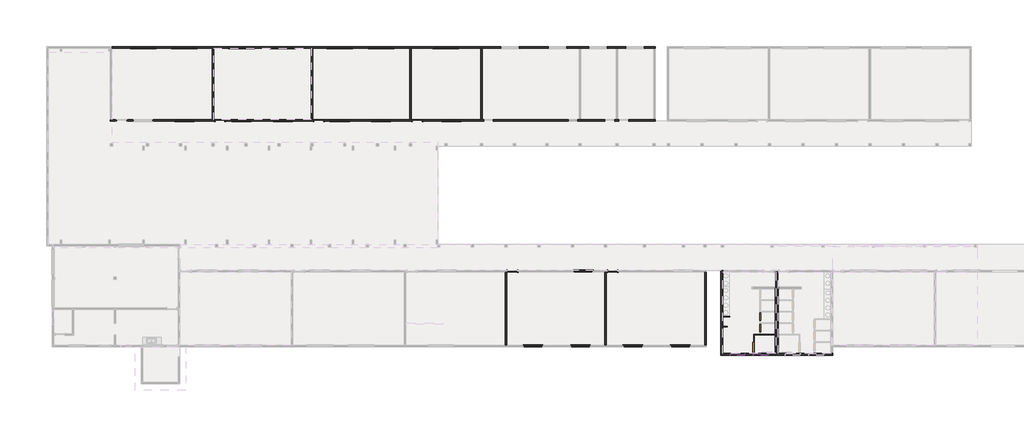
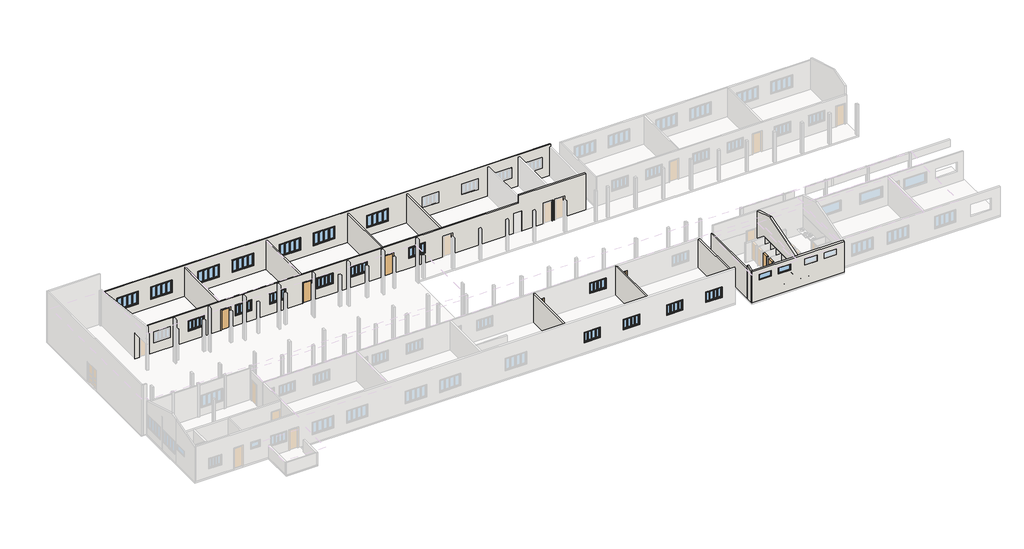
# One storey, part 2 of 5: 21 walls, 20 windows, 8 doors.
"""IFC4 building model written with IfcOpenShell, lengths in millimetres."""

from ifc_helpers import new_model, si_unit, frame, origin, origin_with_axes, place, context, project, spatial, polyline, outline, extrude, faceted_brep, transform, mapped, element, save
from components import m_single_flush_0800_x_2100mm_0fb022da, m_single_flush_0800_x_2100mm_21ec692d, porta_sanitario_0600_x_2100mm_3094f655, porta_sanitario_08013_x_200134mm_2_03278394, casement_quad_w_trim_1500_x_1000_mm_b7d6dd6f, casement_quad_w_trim_1500_x_1000_mm_8fcab8cd, casement_quad_w_trim_2000_x_1000_mm_fe9ded81, janela_93b8da09

model = new_model("IFC4")

# Units and contexts
model_context = context("Model", 3, world=origin())
ifc_project = project(units=[si_unit("LENGTHUNIT", "METRE", prefix="MILLI")], contexts=[model_context])

# Site, building, storey
site = spatial("IfcSite", under=ifc_project)
building = spatial("IfcBuilding", under=site)
storey = spatial("IfcBuildingStorey", under=building, Name="Planta de implantação", Elevation=0.0)

# Doors
placement = place(None, origin())
m_single_flush_0800_x_2100mm_shape = m_single_flush_0800_x_2100mm_0fb022da(model_context)
element("IfcDoor", 1, ObjectType="M_Single-Flush : 0800 x 2100mm", at=placement, inside=storey, context=model_context, shape_type="MappedRepresentation", body=[
    mapped(m_single_flush_0800_x_2100mm_shape, transform((2339.7647365, -22683.3222718, 0.0), x_axis=(-1.0, 0.0, 0.0), y_axis=(0.0, -1.0, 0.0), z_axis=(0.0, 0.0, 1.0))),
])
element("IfcDoor", 2, ObjectType="M_Single-Flush : 0800 x 2100mm", at=placement, inside=storey, context=model_context, shape_type="MappedRepresentation", body=[
    mapped(m_single_flush_0800_x_2100mm_shape, transform((10479.7647365, -22683.3222718, 0.0), x_axis=(-1.0, 0.0, 0.0), y_axis=(0.0, -1.0, 0.0), z_axis=(0.0, 0.0, 1.0))),
])
m_single_flush_0800_x_2100mm_2_shape = m_single_flush_0800_x_2100mm_21ec692d(model_context)
element("IfcDoor", 3, ObjectType="M_Single-Flush : 0800 x 2100mm", at=placement, inside=storey, context=model_context, shape_type="MappedRepresentation", body=[
    mapped(m_single_flush_0800_x_2100mm_2_shape, transform((-21370.2352635, -10453.3222718, 0.0), x_axis=(-1.0, 0.0, 0.0), y_axis=(0.0, -1.0, 0.0), z_axis=(0.0, 0.0, 1.0))),
])
element("IfcDoor", 4, ObjectType="M_Single-Flush : 0800 x 2100mm", at=placement, inside=storey, context=model_context, shape_type="MappedRepresentation", body=[
    mapped(m_single_flush_0800_x_2100mm_2_shape, transform((-13340.2352635, -10453.3222718, 0.0), x_axis=(-1.0, 0.0, 0.0), y_axis=(0.0, -1.0, 0.0), z_axis=(0.0, 0.0, 1.0))),
])
element("IfcDoor", 5, ObjectType="M_Single-Flush : 0800 x 2100mm", at=placement, inside=storey, context=model_context, shape_type="MappedRepresentation", body=[
    mapped(m_single_flush_0800_x_2100mm_2_shape, transform((-5360.2352635, -10453.3222718, 0.0), x_axis=(-1.0, 0.0, 0.0), y_axis=(0.0, -1.0, 0.0), z_axis=(0.0, 0.0, 1.0))),
])
porta_sanitario_0600_x_2100mm_shape = porta_sanitario_0600_x_2100mm_3094f655(model_context)
element("IfcDoor", 6, ObjectType="Porta-sanitario : 0600 x 2100mm", at=placement, inside=storey, context=model_context, shape_type="MappedRepresentation", body=[
    mapped(porta_sanitario_0600_x_2100mm_shape, transform((22449.7647365, -26388.3222718, 0.0), x_axis=(0.0, 1.0, 0.0), y_axis=(-1.0, 0.0, 0.0), z_axis=(0.0, 0.0, 1.0))),
])
element("IfcDoor", 7, ObjectType="Porta-sanitario : 0600 x 2100mm", at=placement, inside=storey, context=model_context, shape_type="MappedRepresentation", body=[
    mapped(porta_sanitario_0600_x_2100mm_shape, transform((22449.7647365, -27328.3222718, 0.0), x_axis=(0.0, 1.0, 0.0), y_axis=(-1.0, 0.0, 0.0), z_axis=(0.0, 0.0, 1.0))),
])
porta_sanitario_08013_x_200134mm_2_shape = porta_sanitario_08013_x_200134mm_2_03278394(model_context)
element("IfcDoor", 8, ObjectType="Porta-sanitario : 08013 x 200134mm 2", at=placement, inside=storey, context=model_context, shape_type="MappedRepresentation", body=[
    mapped(porta_sanitario_08013_x_200134mm_2_shape, transform((21949.7647365, -28871.8222718, 0.0), x_axis=(0.0, -1.0, 0.0), y_axis=(1.0, 0.0, 0.0), z_axis=(0.0, 0.0, 1.0))),
])

# Walls
element("IfcWall", 9, ObjectType="Generic - azuleijo", at=placement, inside=storey, context=model_context, shape_type="SweptSolid", body=[
    extrude(outline(polyline([(19419.7647365, -22768.3222718), (19419.7647365, -29368.3222718), (19409.7647365, -29368.3222718), (19409.7647365, -22768.3222718), (19419.7647365, -22768.3222718)])), origin_with_axes(), (0.0, 0.0, 1.0), 2000.0),
])
element("IfcWall", 10, ObjectType="Generic - azuleijo", at=placement, inside=storey, context=model_context, shape_type="Brep", body=[
    faceted_brep([(23709.7647365, -29368.3222718, 0.0), (23709.7647365, -24108.3222718, 0.0), (23709.7647365, -24108.3222718, 2000.0), (23709.7647365, -29368.3222718, 2000.0), (23699.7647365, -29368.3222718, 0.0), (23699.7647365, -29368.3222718, 2000.0), (23699.7647365, -27878.3222718, 2000.0), (23699.7647365, -27838.3222718, 2000.0), (23699.7647365, -26938.3222718, 2000.0), (23699.7647365, -26898.3222718, 2000.0), (23699.7647365, -25998.3222718, 2000.0), (23699.7647365, -25958.3222718, 2000.0), (23699.7647365, -25058.3222718, 2000.0), (23699.7647365, -25018.3222718, 2000.0), (23699.7647365, -24118.3222718, 2000.0), (23699.7647365, -24108.3222718, 2000.0), (23699.7647365, -24108.3222718, 0.0), (23699.7647365, -24118.3222718, 0.0), (23699.7647365, -25018.3222718, 0.0), (23699.7647365, -25058.3222718, 0.0), (23699.7647365, -25958.3222718, 0.0), (23699.7647365, -25998.3222718, 0.0), (23699.7647365, -26898.3222718, 0.0), (23699.7647365, -26938.3222718, 0.0), (23699.7647365, -27838.3222718, 0.0), (23699.7647365, -27878.3222718, 0.0)], [[[0, 1, 2, 3]], [[4, 5, 6, 7, 8, 9, 10, 11, 12, 13, 14, 15, 16, 17, 18, 19, 20, 21, 22, 23, 24, 25]], [[1, 0, 4, 25, 24, 23, 22, 21, 20, 19, 18, 17, 16]], [[3, 2, 15, 14, 13, 12, 11, 10, 9, 8, 7, 6, 5]], [[0, 3, 5, 4]], [[2, 1, 16, 15]]]),
])
element("IfcWall", 11, ObjectType="Generic - azuleijo", at=placement, inside=storey, context=model_context, shape_type="Brep", body=[
    faceted_brep([(23914.7647365, -29368.3222718, 0.0), (23914.7647365, -24118.3222718, 0.0), (23914.7647365, -24108.3222718, 0.0), (23914.7647365, -24108.3222718, 2000.0), (23914.7647365, -24118.3222718, 2000.0), (23914.7647365, -29368.3222718, 2000.0), (23904.7647365, -29368.3222718, 0.0), (23904.7647365, -29368.3222718, 2000.0), (23904.7647365, -24108.3222718, 2000.0), (23904.7647365, -24108.3222718, 0.0), (23909.7647365, -29368.3222718, 0.0), (23909.7647365, -24108.3222718, 0.0), (23909.7647365, -24108.3222718, 2000.0), (23909.7647365, -29368.3222718, 2000.0)], [[[0, 1, 2, 3, 4, 5]], [[6, 7, 8, 9]], [[2, 1, 0, 10, 6, 9, 11]], [[5, 4, 3, 12, 8, 7, 13]], [[0, 5, 13, 7, 6, 10]], [[3, 2, 11, 9, 8, 12]]]),
])
element("IfcWall", 12, ObjectType="Generic - azuleijo", at=placement, inside=storey, context=model_context, shape_type="SweptSolid", body=[
    extrude(outline(polyline([(19409.7647365, -29368.3222718), (23699.7647365, -29368.3222718), (23699.7647365, -29378.3222718), (19409.7647365, -29378.3222718), (19409.7647365, -29368.3222718)])), origin_with_axes(), (0.0, 0.0, 1.0), 2000.0),
])
element("IfcWall", 13, ObjectType="Generic - 130mm", at=placement, inside=storey, context=model_context, shape_type="Brep", body=[
    faceted_brep([(-30130.2352635, -4588.3222718, 0.0), (-22000.2352635, -4588.3222718, 0.0), (-21870.2352635, -4588.3222718, 0.0), (-13970.2352635, -4588.3222718, 0.0), (-13840.2352635, -4588.3222718, 0.0), (-5990.2352635, -4588.3222718, 0.0), (-5860.2352635, -4588.3222718, 0.0), (-210.2352635, -4588.3222718, 0.0), (-80.2352635, -4588.3222718, 0.0), (7769.7647365, -4588.3222718, 0.0), (7899.7647365, -4588.3222718, 0.0), (10769.7647365, -4588.3222718, 0.0), (10899.7647365, -4588.3222718, 0.0), (13819.7647365, -4588.3222718, 0.0), (13949.7647365, -4588.3222718, 0.0), (13949.7647365, -4588.3222718, 3000.0), (13949.7647365, -4588.3222718, 3219.0), (7419.7647365, -4588.3222718, 3219.0), (-30130.2352635, -4588.3222718, 3219.0), (11569.7647365, -4588.3222718, 1100.0), (11569.7647365, -4588.3222718, 2100.0), (13069.7647365, -4588.3222718, 2100.0), (13069.7647365, -4588.3222718, 1100.0), (8569.7647365, -4588.3222718, 1100.0), (8569.7647365, -4588.3222718, 2100.0), (10069.7647365, -4588.3222718, 2100.0), (10069.7647365, -4588.3222718, 1100.0), (5269.7647365, -4588.3222718, 2100.0), (6769.7647365, -4588.3222718, 2100.0), (6769.7647365, -4588.3222718, 1100.0), (5269.7647365, -4588.3222718, 1100.0), (1419.7647365, -4588.3222718, 2100.0), (2919.7647365, -4588.3222718, 2100.0), (2919.7647365, -4588.3222718, 1100.0), (1419.7647365, -4588.3222718, 1100.0), (-4035.2352635, -4588.3222718, 2100.0), (-2035.2352635, -4588.3222718, 2100.0), (-2035.2352635, -4588.3222718, 900.0), (-4035.2352635, -4588.3222718, 900.0), (-9290.2352635, -4588.3222718, 2100.0), (-7290.2352635, -4588.3222718, 2100.0), (-7290.2352635, -4588.3222718, 900.0), (-9290.2352635, -4588.3222718, 900.0), (-12640.2352635, -4588.3222718, 2100.0), (-10640.2352635, -4588.3222718, 2100.0), (-10640.2352635, -4588.3222718, 900.0), (-12640.2352635, -4588.3222718, 900.0), (-17270.2352635, -4588.3222718, 2100.0), (-15270.2352635, -4588.3222718, 2100.0), (-15270.2352635, -4588.3222718, 900.0), (-17270.2352635, -4588.3222718, 900.0), (-20620.2352635, -4588.3222718, 2100.0), (-18620.2352635, -4588.3222718, 2100.0), (-18620.2352635, -4588.3222718, 900.0), (-20620.2352635, -4588.3222718, 900.0), (-25250.2352635, -4588.3222718, 2100.0), (-23250.2352635, -4588.3222718, 2100.0), (-23250.2352635, -4588.3222718, 900.0), (-25250.2352635, -4588.3222718, 900.0), (-28600.2352635, -4588.3222718, 2100.0), (-26600.2352635, -4588.3222718, 2100.0), (-26600.2352635, -4588.3222718, 900.0), (-28600.2352635, -4588.3222718, 900.0), (13949.7647365, -4458.3222718, 0.0), (-30130.2352635, -4458.3222718, 0.0), (-30130.2352635, -4458.3222718, 3180.0), (7419.7647365, -4458.3222718, 3180.0), (13949.7647365, -4458.3222718, 3180.0), (11569.7647365, -4458.3222718, 2100.0), (11569.7647365, -4458.3222718, 1100.0), (13069.7647365, -4458.3222718, 1100.0), (13069.7647365, -4458.3222718, 2100.0), (8569.7647365, -4458.3222718, 2100.0), (8569.7647365, -4458.3222718, 1100.0), (10069.7647365, -4458.3222718, 1100.0), (10069.7647365, -4458.3222718, 2100.0), (5269.7647365, -4458.3222718, 2100.0), (5269.7647365, -4458.3222718, 1100.0), (6769.7647365, -4458.3222718, 1100.0), (6769.7647365, -4458.3222718, 2100.0), (1419.7647365, -4458.3222718, 2100.0), (1419.7647365, -4458.3222718, 1100.0), (2919.7647365, -4458.3222718, 1100.0), (2919.7647365, -4458.3222718, 2100.0), (-4035.2352635, -4458.3222718, 2100.0), (-4035.2352635, -4458.3222718, 900.0), (-2035.2352635, -4458.3222718, 900.0), (-2035.2352635, -4458.3222718, 2100.0), (-9290.2352635, -4458.3222718, 2100.0), (-9290.2352635, -4458.3222718, 900.0), (-7290.2352635, -4458.3222718, 900.0), (-7290.2352635, -4458.3222718, 2100.0), (-12640.2352635, -4458.3222718, 2100.0), (-12640.2352635, -4458.3222718, 900.0), (-10640.2352635, -4458.3222718, 900.0), (-10640.2352635, -4458.3222718, 2100.0), (-17270.2352635, -4458.3222718, 2100.0), (-17270.2352635, -4458.3222718, 900.0), (-15270.2352635, -4458.3222718, 900.0), (-15270.2352635, -4458.3222718, 2100.0), (-20620.2352635, -4458.3222718, 2100.0), (-20620.2352635, -4458.3222718, 900.0), (-18620.2352635, -4458.3222718, 900.0), (-18620.2352635, -4458.3222718, 2100.0), (-25250.2352635, -4458.3222718, 2100.0), (-25250.2352635, -4458.3222718, 900.0), (-23250.2352635, -4458.3222718, 900.0), (-23250.2352635, -4458.3222718, 2100.0), (-28600.2352635, -4458.3222718, 2100.0), (-28600.2352635, -4458.3222718, 900.0), (-26600.2352635, -4458.3222718, 900.0), (-26600.2352635, -4458.3222718, 2100.0)], [[[0, 1, 2, 3, 4, 5, 6, 7, 8, 9, 10, 11, 12, 13, 14, 15, 16, 17, 18], [19, 20, 21, 22], [23, 24, 25, 26], [27, 28, 29, 30], [31, 32, 33, 34], [35, 36, 37, 38], [39, 40, 41, 42], [43, 44, 45, 46], [47, 48, 49, 50], [51, 52, 53, 54], [55, 56, 57, 58], [59, 60, 61, 62]], [[63, 64, 65, 66, 67], [68, 69, 70, 71], [72, 73, 74, 75], [76, 77, 78, 79], [80, 81, 82, 83], [84, 85, 86, 87], [88, 89, 90, 91], [92, 93, 94, 95], [96, 97, 98, 99], [100, 101, 102, 103], [104, 105, 106, 107], [108, 109, 110, 111]], [[14, 13, 12, 11, 10, 9, 8, 7, 6, 5, 4, 3, 2, 1, 0, 64, 63]], [[0, 18, 65, 64]], [[16, 15, 14, 63, 67]], [[17, 16, 67, 66, 65, 18]], [[68, 20, 19, 69]], [[69, 19, 22, 70]], [[70, 22, 21, 71]], [[20, 68, 71, 21]], [[72, 24, 23, 73]], [[73, 23, 26, 74]], [[74, 26, 25, 75]], [[24, 72, 75, 25]], [[77, 76, 27, 30]], [[78, 77, 30, 29]], [[79, 78, 29, 28]], [[76, 79, 28, 27]], [[81, 80, 31, 34]], [[82, 81, 34, 33]], [[83, 82, 33, 32]], [[80, 83, 32, 31]], [[85, 84, 35, 38]], [[86, 85, 38, 37]], [[87, 86, 37, 36]], [[84, 87, 36, 35]], [[89, 88, 39, 42]], [[90, 89, 42, 41]], [[91, 90, 41, 40]], [[88, 91, 40, 39]], [[93, 92, 43, 46]], [[94, 93, 46, 45]], [[95, 94, 45, 44]], [[92, 95, 44, 43]], [[97, 96, 47, 50]], [[98, 97, 50, 49]], [[99, 98, 49, 48]], [[96, 99, 48, 47]], [[101, 100, 51, 54]], [[102, 101, 54, 53]], [[103, 102, 53, 52]], [[100, 103, 52, 51]], [[105, 104, 55, 58]], [[106, 105, 58, 57]], [[107, 106, 57, 56]], [[104, 107, 56, 55]], [[109, 108, 59, 62]], [[110, 109, 62, 61]], [[111, 110, 61, 60]], [[108, 111, 60, 59]]]),
])
element("IfcWall", 14, ObjectType="Generic - 130mm", at=placement, inside=storey, context=model_context, shape_type="Brep", body=[
    faceted_brep([(10669.7647365, -10518.3222718, 0.0), (10999.7647365, -10518.3222718, 0.0), (10999.7647365, -10518.3222718, 2100.0), (11799.7647365, -10518.3222718, 2100.0), (11799.7647365, -10518.3222718, 0.0), (13949.7647365, -10518.3222718, 0.0), (13949.7647365, -10518.3222718, 3780.0), (7419.7647365, -10518.3222718, 3780.0), (7419.7647365, -10518.3222718, 3000.0), (-30130.2352635, -10518.3222718, 3000.0), (-30130.2352635, -10518.3222718, 2700.0), (-30260.2352635, -10518.3222718, 2700.0), (-30260.2352635, -10518.3222718, 0.0), (-29750.2352635, -10518.3222718, 0.0), (-29750.2352635, -10518.3222718, 2100.0), (-28950.2352635, -10518.3222718, 2100.0), (-28950.2352635, -10518.3222718, 0.0), (-21770.2352635, -10518.3222718, 0.0), (-21770.2352635, -10518.3222718, 2100.0), (-20970.2352635, -10518.3222718, 2100.0), (-20970.2352635, -10518.3222718, 0.0), (-13740.2352635, -10518.3222718, 0.0), (-13740.2352635, -10518.3222718, 2100.0), (-12940.2352635, -10518.3222718, 2100.0), (-12940.2352635, -10518.3222718, 0.0), (-5760.2352635, -10518.3222718, 0.0), (-5760.2352635, -10518.3222718, 2100.0), (-4960.2352635, -10518.3222718, 2100.0), (-4960.2352635, -10518.3222718, 0.0), (19.7647365, -10518.3222718, 0.0), (19.7647365, -10518.3222718, 2100.0), (819.7647365, -10518.3222718, 2100.0), (819.7647365, -10518.3222718, 0.0), (6869.7647365, -10518.3222718, 0.0), (6869.7647365, -10518.3222718, 2100.0), (7669.7647365, -10518.3222718, 2100.0), (7669.7647365, -10518.3222718, 0.0), (9869.7647365, -10518.3222718, 0.0), (9869.7647365, -10518.3222718, 2100.0), (10669.7647365, -10518.3222718, 2100.0), (-3335.2352635, -10518.3222718, 2100.0), (-1835.2352635, -10518.3222718, 2100.0), (-1835.2352635, -10518.3222718, 1100.0), (-3335.2352635, -10518.3222718, 1100.0), (-12390.2352635, -10518.3222718, 2100.0), (-10890.2352635, -10518.3222718, 2100.0), (-10890.2352635, -10518.3222718, 1100.0), (-12390.2352635, -10518.3222718, 1100.0), (-7540.2352635, -10518.3222718, 2100.0), (-7540.2352635, -10518.3222718, 1100.0), (-9040.2352635, -10518.3222718, 1100.0), (-9040.2352635, -10518.3222718, 2100.0), (-20370.2352635, -10518.3222718, 2100.0), (-18870.2352635, -10518.3222718, 2100.0), (-18870.2352635, -10518.3222718, 1100.0), (-20370.2352635, -10518.3222718, 1100.0), (-15520.2352635, -10518.3222718, 2100.0), (-15520.2352635, -10518.3222718, 1100.0), (-17020.2352635, -10518.3222718, 1100.0), (-17020.2352635, -10518.3222718, 2100.0), (-28350.2352635, -10518.3222718, 2100.0), (-26850.2352635, -10518.3222718, 2100.0), (-26850.2352635, -10518.3222718, 1100.0), (-28350.2352635, -10518.3222718, 1100.0), (-23500.2352635, -10518.3222718, 2100.0), (-23500.2352635, -10518.3222718, 1100.0), (-25000.2352635, -10518.3222718, 1100.0), (-25000.2352635, -10518.3222718, 2100.0), (10999.7647365, -10388.3222718, 2100.0), (10999.7647365, -10388.3222718, 0.0), (10899.7647365, -10388.3222718, 0.0), (10769.7647365, -10388.3222718, 0.0), (10669.7647365, -10388.3222718, 0.0), (10669.7647365, -10388.3222718, 2100.0), (9869.7647365, -10388.3222718, 2100.0), (9869.7647365, -10388.3222718, 0.0), (7899.7647365, -10388.3222718, 0.0), (7769.7647365, -10388.3222718, 0.0), (7669.7647365, -10388.3222718, 0.0), (7669.7647365, -10388.3222718, 2100.0), (6869.7647365, -10388.3222718, 2100.0), (6869.7647365, -10388.3222718, 0.0), (819.7647365, -10388.3222718, 0.0), (819.7647365, -10388.3222718, 2100.0), (19.7647365, -10388.3222718, 2100.0), (19.7647365, -10388.3222718, 0.0), (-80.2352635, -10388.3222718, 0.0), (-210.2352635, -10388.3222718, 0.0), (-4960.2352635, -10388.3222718, 0.0), (-4960.2352635, -10388.3222718, 2100.0), (-5760.2352635, -10388.3222718, 2100.0), (-5760.2352635, -10388.3222718, 0.0), (-5860.2352635, -10388.3222718, 0.0), (-5990.2352635, -10388.3222718, 0.0), (-12940.2352635, -10388.3222718, 0.0), (-12940.2352635, -10388.3222718, 2100.0), (-13740.2352635, -10388.3222718, 2100.0), (-13740.2352635, -10388.3222718, 0.0), (-13840.2352635, -10388.3222718, 0.0), (-13970.2352635, -10388.3222718, 0.0), (-20970.2352635, -10388.3222718, 0.0), (-20970.2352635, -10388.3222718, 2100.0), (-21770.2352635, -10388.3222718, 2100.0), (-21770.2352635, -10388.3222718, 0.0), (-21870.2352635, -10388.3222718, 0.0), (-22000.2352635, -10388.3222718, 0.0), (-28950.2352635, -10388.3222718, 0.0), (-28950.2352635, -10388.3222718, 2100.0), (-29750.2352635, -10388.3222718, 2100.0), (-29750.2352635, -10388.3222718, 0.0), (-30130.2352635, -10388.3222718, 0.0), (-30260.2352635, -10388.3222718, 0.0), (-30260.2352635, -10388.3222718, 2700.0), (-30130.2352635, -10388.3222718, 2700.0), (-30130.2352635, -10388.3222718, 3000.0), (-22000.2352635, -10388.3222718, 3000.0), (-21870.2352635, -10388.3222718, 3000.0), (-13970.2352635, -10388.3222718, 3000.0), (-13840.2352635, -10388.3222718, 3000.0), (-5990.2352635, -10388.3222718, 3000.0), (-5860.2352635, -10388.3222718, 3000.0), (-210.2352635, -10388.3222718, 3000.0), (-80.2352635, -10388.3222718, 3000.0), (7419.7647365, -10388.3222718, 3000.0), (7419.7647365, -10388.3222718, 3819.0), (13949.7647365, -10388.3222718, 3819.0), (13949.7647365, -10388.3222718, 3000.0), (13949.7647365, -10388.3222718, 0.0), (13819.7647365, -10388.3222718, 0.0), (11799.7647365, -10388.3222718, 0.0), (11799.7647365, -10388.3222718, 2100.0), (-3335.2352635, -10388.3222718, 2100.0), (-3335.2352635, -10388.3222718, 1100.0), (-1835.2352635, -10388.3222718, 1100.0), (-1835.2352635, -10388.3222718, 2100.0), (-12390.2352635, -10388.3222718, 2100.0), (-12390.2352635, -10388.3222718, 1100.0), (-10890.2352635, -10388.3222718, 1100.0), (-10890.2352635, -10388.3222718, 2100.0), (-7540.2352635, -10388.3222718, 2100.0), (-9040.2352635, -10388.3222718, 2100.0), (-9040.2352635, -10388.3222718, 1100.0), (-7540.2352635, -10388.3222718, 1100.0), (-20370.2352635, -10388.3222718, 2100.0), (-20370.2352635, -10388.3222718, 1100.0), (-18870.2352635, -10388.3222718, 1100.0), (-18870.2352635, -10388.3222718, 2100.0), (-15520.2352635, -10388.3222718, 2100.0), (-17020.2352635, -10388.3222718, 2100.0), (-17020.2352635, -10388.3222718, 1100.0), (-15520.2352635, -10388.3222718, 1100.0), (-28350.2352635, -10388.3222718, 2100.0), (-28350.2352635, -10388.3222718, 1100.0), (-26850.2352635, -10388.3222718, 1100.0), (-26850.2352635, -10388.3222718, 2100.0), (-23500.2352635, -10388.3222718, 2100.0), (-25000.2352635, -10388.3222718, 2100.0), (-25000.2352635, -10388.3222718, 1100.0), (-23500.2352635, -10388.3222718, 1100.0)], [[[0, 1, 2, 3, 4, 5, 6, 7, 8, 9, 10, 11, 12, 13, 14, 15, 16, 17, 18, 19, 20, 21, 22, 23, 24, 25, 26, 27, 28, 29, 30, 31, 32, 33, 34, 35, 36, 37, 38, 39], [40, 41, 42, 43], [44, 45, 46, 47], [48, 49, 50, 51], [52, 53, 54, 55], [56, 57, 58, 59], [60, 61, 62, 63], [64, 65, 66, 67]], [[68, 69, 70, 71, 72, 73, 74, 75, 76, 77, 78, 79, 80, 81, 82, 83, 84, 85, 86, 87, 88, 89, 90, 91, 92, 93, 94, 95, 96, 97, 98, 99, 100, 101, 102, 103, 104, 105, 106, 107, 108, 109, 110, 111, 112, 113, 114, 115, 116, 117, 118, 119, 120, 121, 122, 123, 124, 125, 126, 127, 128, 129, 130], [131, 132, 133, 134], [135, 136, 137, 138], [139, 140, 141, 142], [143, 144, 145, 146], [147, 148, 149, 150], [151, 152, 153, 154], [155, 156, 157, 158]], [[72, 71, 70, 69, 1, 0]], [[12, 111, 110, 109, 13]], [[16, 106, 105, 104, 103, 17]], [[20, 100, 99, 98, 97, 21]], [[24, 94, 93, 92, 91, 25]], [[28, 88, 87, 86, 85, 29]], [[32, 82, 81, 33]], [[37, 36, 78, 77, 76, 75]], [[129, 128, 127, 5, 4]], [[6, 5, 127, 126, 125]], [[113, 112, 11, 10]], [[12, 11, 112, 111]], [[10, 9, 114, 113]], [[114, 9, 8, 123, 122, 121, 120, 119, 118, 117, 116, 115]], [[123, 8, 7, 124]], [[7, 6, 125, 124]], [[14, 13, 109, 108]], [[15, 14, 108, 107]], [[16, 15, 107, 106]], [[18, 17, 103, 102]], [[19, 18, 102, 101]], [[20, 19, 101, 100]], [[22, 21, 97, 96]], [[23, 22, 96, 95]], [[24, 23, 95, 94]], [[26, 25, 91, 90]], [[27, 26, 90, 89]], [[28, 27, 89, 88]], [[30, 29, 85, 84]], [[31, 30, 84, 83]], [[32, 31, 83, 82]], [[35, 79, 78, 36]], [[79, 35, 34, 80]], [[80, 34, 33, 81]], [[73, 72, 0, 39]], [[74, 73, 39, 38]], [[75, 74, 38, 37]], [[2, 1, 69, 68]], [[3, 2, 68, 130]], [[4, 3, 130, 129]], [[132, 131, 40, 43]], [[133, 132, 43, 42]], [[134, 133, 42, 41]], [[131, 134, 41, 40]], [[136, 135, 44, 47]], [[137, 136, 47, 46]], [[138, 137, 46, 45]], [[135, 138, 45, 44]], [[49, 48, 139, 142]], [[50, 49, 142, 141]], [[51, 50, 141, 140]], [[48, 51, 140, 139]], [[144, 143, 52, 55]], [[145, 144, 55, 54]], [[146, 145, 54, 53]], [[143, 146, 53, 52]], [[57, 56, 147, 150]], [[58, 57, 150, 149]], [[59, 58, 149, 148]], [[56, 59, 148, 147]], [[152, 151, 60, 63]], [[153, 152, 63, 62]], [[154, 153, 62, 61]], [[151, 154, 61, 60]], [[65, 64, 155, 158]], [[66, 65, 158, 157]], [[67, 66, 157, 156]], [[64, 67, 156, 155]]]),
])
element("IfcWall", 15, ObjectType="Generic - 130mm", at=placement, inside=storey, context=model_context, shape_type="SweptSolid", body=[
    extrude(outline(polyline([(-22000.2352635, -10388.3222718), (-22000.2352635, -4588.3222718), (-21870.2352635, -4588.3222718), (-21870.2352635, -10388.3222718), (-22000.2352635, -10388.3222718)])), origin_with_axes(), (0.0, 0.0, 1.0), 3000.0),
])
element("IfcWall", 16, ObjectType="Generic - 130mm", at=placement, inside=storey, context=model_context, shape_type="SweptSolid", body=[
    extrude(outline(polyline([(-13970.2352635, -10388.3222718), (-13970.2352635, -4588.3222718), (-13840.2352635, -4588.3222718), (-13840.2352635, -10388.3222718), (-13970.2352635, -10388.3222718)])), origin_with_axes(), (0.0, 0.0, 1.0), 3000.0),
])
element("IfcWall", 17, ObjectType="Generic - 130mm", at=placement, inside=storey, context=model_context, shape_type="SweptSolid", body=[
    extrude(outline(polyline([(-5990.2352635, -10388.3222718), (-5990.2352635, -4588.3222718), (-5860.2352635, -4588.3222718), (-5860.2352635, -10388.3222718), (-5990.2352635, -10388.3222718)])), origin_with_axes(), (0.0, 0.0, 1.0), 3000.0),
])
element("IfcWall", 18, ObjectType="Generic - 130mm", at=placement, inside=storey, context=model_context, shape_type="SweptSolid", body=[
    extrude(outline(polyline([(-210.2352635, -10388.3222718), (-210.2352635, -4588.3222718), (-80.2352635, -4588.3222718), (-80.2352635, -10388.3222718), (-210.2352635, -10388.3222718)])), origin_with_axes(), (0.0, 0.0, 1.0), 3000.0),
])
element("IfcWall", 19, ObjectType="Generic - 130mm", at=placement, inside=storey, context=model_context, shape_type="SweptSolid", body=[
    extrude(outline(polyline([(1899.7647365, -22748.3222718), (1899.7647365, -28698.3222718), (1769.7647365, -28698.3222718), (1769.7647365, -22748.3222718), (1899.7647365, -22748.3222718)])), origin_with_axes(), (0.0, 0.0, 1.0), 3000.0),
])
element("IfcWall", 20, ObjectType="Generic - 130mm", at=placement, inside=storey, context=model_context, shape_type="SweptSolid", body=[
    extrude(outline(polyline([(9979.7647365, -22748.3222718), (9979.7647365, -28698.3222718), (9849.7647365, -28698.3222718), (9849.7647365, -22748.3222718), (9979.7647365, -22748.3222718)])), origin_with_axes(), (0.0, 0.0, 1.0), 3000.0),
])
element("IfcWall", 21, ObjectType="Generic - 130mm", at=placement, inside=storey, context=model_context, shape_type="Brep", body=[
    faceted_brep([(19409.7647365, -28778.3222718, 0.0), (19409.7647365, -22768.3222718, 0.0), (19409.7647365, -22758.3222718, 0.0), (19409.7647365, -22618.3222718, 0.0), (19409.7647365, -22618.3222718, 3000.0), (19409.7647365, -28778.3222718, 3000.0), (19279.7647365, -28778.3222718, 0.0), (19279.7647365, -28778.3222718, 3000.0), (19279.7647365, -22618.3222718, 3000.0), (19279.7647365, -22618.3222718, 0.0)], [[[0, 1, 2, 3, 4, 5]], [[6, 7, 8, 9]], [[3, 2, 1, 0, 6, 9]], [[5, 4, 8, 7]], [[0, 5, 7, 6]], [[4, 3, 9, 8]]]),
])
element("IfcWall", 22, ObjectType="Generic - 130mm", at=placement, inside=storey, context=model_context, shape_type="Brep", body=[
    faceted_brep([(19279.7647365, -28778.3222718, 0.0), (19279.7647365, -29368.3222718, 0.0), (19279.7647365, -29368.3222718, 3243.0), (19279.7647365, -28778.3222718, 3420.0), (19279.7647365, -28778.3222718, 3000.0), (19409.7647365, -28778.3222718, 0.0), (19409.7647365, -28778.3222718, 3000.0), (19409.7647365, -28778.3222718, 3420.0), (19409.7647365, -29368.3222718, 3243.0), (19409.7647365, -29368.3222718, 2000.0), (19409.7647365, -29368.3222718, 0.0)], [[[0, 1, 2, 3, 4]], [[5, 6, 7, 8, 9, 10]], [[1, 0, 5, 10]], [[0, 4, 3, 7, 6, 5]], [[2, 1, 10, 9, 8]], [[3, 2, 8, 7]]]),
])
element("IfcWall", 23, ObjectType="Generic - 130mm", at=placement, inside=storey, context=model_context, shape_type="SweptSolid", body=[
    extrude(outline(polyline([(18079.7647365, -22748.3222718), (18079.7647365, -28698.3222718), (17949.7647365, -28698.3222718), (17949.7647365, -22748.3222718), (18079.7647365, -22748.3222718)])), origin_with_axes(), (0.0, 0.0, 1.0), 3000.0),
])
element("IfcWall", 24, ObjectType="Generic - 150mm", at=placement, inside=storey, context=model_context, shape_type="Brep", body=[
    faceted_brep([(19279.7647365, -29518.3222718, 0.0), (28364.7647365, -29518.3222718, 0.0), (28364.7647365, -29518.3222718, 3198.0), (19279.7647365, -29518.3222718, 3198.0), (25714.7647365, -29518.3222718, 2700.0), (25714.7647365, -29518.3222718, 2100.0), (24514.7647365, -29518.3222718, 2100.0), (24514.7647365, -29518.3222718, 2700.0), (23099.7647365, -29518.3222718, 2700.0), (23099.7647365, -29518.3222718, 2100.0), (21899.7647365, -29518.3222718, 2100.0), (21899.7647365, -29518.3222718, 2700.0), (27604.7647365, -29518.3222718, 2700.0), (27604.7647365, -29518.3222718, 2100.0), (26404.7647365, -29518.3222718, 2100.0), (26404.7647365, -29518.3222718, 2700.0), (21219.7647365, -29518.3222718, 2700.0), (21219.7647365, -29518.3222718, 2100.0), (20019.7647365, -29518.3222718, 2100.0), (20019.7647365, -29518.3222718, 2700.0), (28364.7647365, -29368.3222718, 3243.0), (28364.7647365, -29368.3222718, 0.0), (28214.7647365, -29368.3222718, 0.0), (28214.7647365, -29368.3222718, 2000.0), (23909.7647365, -29368.3222718, 2000.0), (23909.7647365, -29368.3222718, 0.0), (23904.7647365, -29368.3222718, 0.0), (23709.7647365, -29368.3222718, 0.0), (23699.7647365, -29368.3222718, 0.0), (23699.7647365, -29368.3222718, 2000.0), (19409.7647365, -29368.3222718, 2000.0), (19409.7647365, -29368.3222718, 0.0), (19279.7647365, -29368.3222718, 0.0), (19279.7647365, -29368.3222718, 3243.0), (19409.7647365, -29368.3222718, 3243.0), (23709.7647365, -29368.3222718, 3243.0), (23909.7647365, -29368.3222718, 3243.0), (28214.7647365, -29368.3222718, 3243.0), (25714.7647365, -29368.3222718, 2100.0), (25714.7647365, -29368.3222718, 2700.0), (24514.7647365, -29368.3222718, 2700.0), (24514.7647365, -29368.3222718, 2100.0), (23099.7647365, -29368.3222718, 2100.0), (23099.7647365, -29368.3222718, 2700.0), (21899.7647365, -29368.3222718, 2700.0), (21899.7647365, -29368.3222718, 2100.0), (27604.7647365, -29368.3222718, 2100.0), (27604.7647365, -29368.3222718, 2700.0), (26404.7647365, -29368.3222718, 2700.0), (26404.7647365, -29368.3222718, 2100.0), (21219.7647365, -29368.3222718, 2100.0), (21219.7647365, -29368.3222718, 2700.0), (20019.7647365, -29368.3222718, 2700.0), (20019.7647365, -29368.3222718, 2100.0), (19409.7647365, -29378.3222718, 0.0), (23699.7647365, -29378.3222718, 0.0), (23909.7647365, -29378.3222718, 0.0), (28214.7647365, -29378.3222718, 0.0), (28214.7647365, -29378.3222718, 2000.0), (23909.7647365, -29378.3222718, 2000.0), (23699.7647365, -29378.3222718, 2000.0), (19409.7647365, -29378.3222718, 2000.0)], [[[0, 1, 2, 3], [4, 5, 6, 7], [8, 9, 10, 11], [12, 13, 14, 15], [16, 17, 18, 19]], [[20, 21, 22, 23, 24, 25, 26, 27, 28, 29, 30, 31, 32, 33, 34, 35, 36, 37], [38, 39, 40, 41], [42, 43, 44, 45], [46, 47, 48, 49], [50, 51, 52, 53]], [[1, 0, 32, 31, 54, 55, 28, 27, 26, 25, 56, 57, 22, 21]], [[2, 1, 21, 20]], [[0, 3, 33, 32]], [[3, 2, 20, 37, 36, 35, 34, 33]], [[38, 5, 4, 39]], [[39, 4, 7, 40]], [[40, 7, 6, 41]], [[5, 38, 41, 6]], [[42, 9, 8, 43]], [[43, 8, 11, 44]], [[44, 11, 10, 45]], [[9, 42, 45, 10]], [[46, 13, 12, 47]], [[47, 12, 15, 48]], [[48, 15, 14, 49]], [[13, 46, 49, 14]], [[50, 17, 16, 51]], [[51, 16, 19, 52]], [[52, 19, 18, 53]], [[17, 50, 53, 18]], [[58, 57, 56, 59]], [[58, 59, 24, 23]], [[57, 58, 23, 22]], [[59, 56, 25, 24]], [[60, 55, 54, 61]], [[60, 61, 30, 29]], [[55, 60, 29, 28]], [[61, 54, 31, 30]]]),
])
element("IfcWall", 25, ObjectType="Generic - 200mm", at=placement, inside=storey, context=model_context, shape_type="Brep", body=[
    faceted_brep([(23909.7647365, -22768.3222718, 3915.0), (23909.7647365, -24948.3222718, 4569.0), (23909.7647365, -29368.3222718, 3243.0), (23909.7647365, -29368.3222718, 2000.0), (23909.7647365, -24108.3222718, 2000.0), (23909.7647365, -24108.3222718, 0.0), (23909.7647365, -23978.3222718, 0.0), (23909.7647365, -23978.3222718, 2000.0), (23909.7647365, -22768.3222718, 2000.0), (23709.7647365, -22768.3222718, 0.0), (23709.7647365, -23968.3222718, 0.0), (23709.7647365, -24118.3222718, 0.0), (23709.7647365, -29368.3222718, 0.0), (23709.7647365, -29368.3222718, 3243.0), (23709.7647365, -24948.3222718, 4569.0), (23709.7647365, -22768.3222718, 3915.0), (23904.7647365, -22768.3222718, 0.0), (23904.7647365, -23978.3222718, 0.0), (23904.7647365, -24108.3222718, 0.0), (23904.7647365, -29368.3222718, 0.0), (23904.7647365, -29368.3222718, 2000.0), (23904.7647365, -22768.3222718, 2000.0), (23904.7647365, -24108.3222718, 2000.0), (23904.7647365, -23978.3222718, 2000.0)], [[[0, 1, 2, 3, 4, 5, 6, 7, 8]], [[9, 10, 11, 12, 13, 14, 15]], [[12, 11, 10, 9, 16, 17, 6, 5, 18, 19]], [[2, 13, 12, 19, 20, 3]], [[9, 15, 0, 8, 21, 16]], [[13, 2, 1, 14]], [[0, 15, 14, 1]], [[22, 20, 19, 18]], [[20, 22, 4, 3]], [[22, 18, 5, 4]], [[23, 17, 16, 21]], [[23, 21, 8, 7]], [[17, 23, 7, 6]]]),
])
element("IfcWall", 26, ObjectType="Generic - 40mm", at=placement, inside=storey, context=model_context, shape_type="Brep", body=[
    faceted_brep([(21929.7647365, -29368.3222718, 200.0), (21929.7647365, -29368.3222718, 2000.0), (21929.7647365, -29271.8722718, 2000.0), (21929.7647365, -29271.8722718, 200.0), (21969.7647365, -29368.3222718, 2000.0), (21969.7647365, -29368.3222718, 200.0), (21969.7647365, -29271.8722718, 200.0), (21969.7647365, -29271.8722718, 2000.0)], [[[0, 1, 2, 3]], [[4, 5, 6, 7]], [[5, 0, 3, 6]], [[1, 4, 7, 2]], [[1, 0, 5, 4]], [[3, 2, 7, 6]]]),
    faceted_brep([(21929.7647365, -27838.3222718, 2000.0), (21929.7647365, -27838.3222718, 200.0), (21929.7647365, -28471.7722718, 200.0), (21929.7647365, -28471.7722718, 2000.0), (21969.7647365, -27838.3222718, 200.0), (21969.7647365, -27838.3222718, 2000.0), (21969.7647365, -27878.3222718, 2000.0), (21969.7647365, -28471.7722718, 2000.0), (21969.7647365, -28471.7722718, 200.0)], [[[0, 1, 2, 3]], [[4, 5, 6, 7, 8]], [[1, 4, 8, 2]], [[5, 0, 3, 7, 6]], [[1, 0, 5, 4]], [[3, 2, 8, 7]]]),
])
element("IfcWall", 27, ObjectType="Generic - 40mm", at=placement, inside=storey, context=model_context, shape_type="SweptSolid", body=[
    extrude(outline(polyline([(19409.7647365, -27158.3222718), (19794.7647365, -27158.3222718), (19794.7647365, -27198.3222718), (19409.7647365, -27198.3222718), (19409.7647365, -27158.3222718)])), frame((0.0, 0.0, 400.0), z_axis=(0.0, 0.0, 1.0), x_axis=(1.0, 0.0, 0.0)), (0.0, 0.0, 1.0), 700.0),
])
element("IfcWall", 28, ObjectType="Generic - 40mm", at=placement, inside=storey, context=model_context, shape_type="SweptSolid", body=[
    extrude(outline(polyline([(19409.7647365, -26358.3222718), (19974.7647365, -26358.3222718), (19974.7647365, -26398.3222718), (19409.7647365, -26398.3222718), (19409.7647365, -26358.3222718)])), frame((0.0, 0.0, 400.0), z_axis=(0.0, 0.0, 1.0), x_axis=(1.0, 0.0, 0.0)), (0.0, 0.0, 1.0), 700.0),
])
element("IfcWall", 29, ObjectType="Generic - 40mm", at=placement, inside=storey, context=model_context, shape_type="Brep", body=[
    faceted_brep([(23699.7647365, -27838.3222718, 0.0), (23500.3684976, -27838.3222718, 0.0), (23300.3684976, -27838.3222718, 200.0), (22469.7647365, -27838.3222718, 200.0), (22429.7647365, -27838.3222718, 200.0), (22239.7647365, -27838.3222718, 200.0), (22039.7647365, -27838.3222718, 0.0), (21969.7647365, -27838.3222718, 0.0), (21969.7647365, -27838.3222718, 200.0), (21969.7647365, -27838.3222718, 2000.0), (22429.7647365, -27838.3222718, 2000.0), (22469.7647365, -27838.3222718, 2000.0), (23699.7647365, -27838.3222718, 2000.0), (23699.7647365, -27878.3222718, 0.0), (23699.7647365, -27878.3222718, 2000.0), (21969.7647365, -27878.3222718, 2000.0), (21969.7647365, -27878.3222718, 0.0), (22039.7647365, -27878.3222718, 0.0), (22239.7647365, -27878.3222718, 200.0), (23300.3684976, -27878.3222718, 200.0), (23500.3684976, -27878.3222718, 0.0)], [[[0, 1, 2, 3, 4, 5, 6, 7, 8, 9, 10, 11, 12]], [[13, 14, 15, 16, 17, 18, 19, 20]], [[1, 0, 13, 20]], [[2, 1, 20, 19]], [[5, 4, 3, 2, 19, 18]], [[6, 5, 18, 17]], [[7, 6, 17, 16]], [[12, 11, 10, 9, 15, 14]], [[9, 8, 7, 16, 15]], [[0, 12, 14, 13]]]),
])

# Windows
casement_quad_w_trim_1500_x_1000_mm_shape = casement_quad_w_trim_1500_x_1000_mm_b7d6dd6f(model_context)
element("IfcWindow", 30, ObjectType="Casement-Quad w Trim : 1500 x 1000 mm", at=placement, inside=storey, context=model_context, shape_type="MappedRepresentation", body=[
    mapped(casement_quad_w_trim_1500_x_1000_mm_shape, transform((4029.7647365, -28782.3722718, 185.6), x_axis=(-1.0, 0.0, 0.0), y_axis=(0.0, -1.0, 0.0), z_axis=(0.0, 0.0, 1.0))),
])
element("IfcWindow", 31, ObjectType="Casement-Quad w Trim : 1500 x 1000 mm", at=placement, inside=storey, context=model_context, shape_type="MappedRepresentation", body=[
    mapped(casement_quad_w_trim_1500_x_1000_mm_shape, transform((7879.7647365, -28782.3722718, 185.6), x_axis=(-1.0, 0.0, 0.0), y_axis=(0.0, -1.0, 0.0), z_axis=(0.0, 0.0, 1.0))),
])
element("IfcWindow", 32, ObjectType="Casement-Quad w Trim : 1500 x 1000 mm", at=placement, inside=storey, context=model_context, shape_type="MappedRepresentation", body=[
    mapped(casement_quad_w_trim_1500_x_1000_mm_shape, transform((12129.7647365, -28782.3722718, 185.6), x_axis=(-1.0, 0.0, 0.0), y_axis=(0.0, -1.0, 0.0), z_axis=(0.0, 0.0, 1.0))),
])
element("IfcWindow", 33, ObjectType="Casement-Quad w Trim : 1500 x 1000 mm", at=placement, inside=storey, context=model_context, shape_type="MappedRepresentation", body=[
    mapped(casement_quad_w_trim_1500_x_1000_mm_shape, transform((15979.7647365, -28782.3722718, 185.6), x_axis=(-1.0, 0.0, 0.0), y_axis=(0.0, -1.0, 0.0), z_axis=(0.0, 0.0, 1.0))),
])
element("IfcWindow", 34, ObjectType="Casement-Quad w Trim : 1500 x 1000 mm", at=placement, inside=storey, context=model_context, shape_type="MappedRepresentation", body=[
    mapped(casement_quad_w_trim_1500_x_1000_mm_shape, transform((8099.7647365, -22702.3722718, 185.6), x_axis=(-1.0, 0.0, 0.0), y_axis=(0.0, -1.0, 0.0), z_axis=(0.0, 0.0, 1.0))),
])
casement_quad_w_trim_1500_x_1000_mm_2_shape = casement_quad_w_trim_1500_x_1000_mm_8fcab8cd(model_context)
element("IfcWindow", 35, ObjectType="Casement-Quad w Trim : 1500 x 1000 mm", at=placement, inside=storey, context=model_context, shape_type="MappedRepresentation", body=[
    mapped(casement_quad_w_trim_1500_x_1000_mm_2_shape, transform((-24250.2352635, -10472.3722718, 185.6), x_axis=(1.0, 0.0, 0.0), y_axis=(0.0, 1.0, 0.0), z_axis=(0.0, 0.0, 1.0))),
])
element("IfcWindow", 36, ObjectType="Casement-Quad w Trim : 1500 x 1000 mm", at=placement, inside=storey, context=model_context, shape_type="MappedRepresentation", body=[
    mapped(casement_quad_w_trim_1500_x_1000_mm_2_shape, transform((-16270.2352635, -10472.3722718, 185.6), x_axis=(1.0, 0.0, 0.0), y_axis=(0.0, 1.0, 0.0), z_axis=(0.0, 0.0, 1.0))),
])
element("IfcWindow", 37, ObjectType="Casement-Quad w Trim : 1500 x 1000 mm", at=placement, inside=storey, context=model_context, shape_type="MappedRepresentation", body=[
    mapped(casement_quad_w_trim_1500_x_1000_mm_2_shape, transform((-19620.2352635, -10434.2722718, 185.6), x_axis=(-1.0, 0.0, 0.0), y_axis=(0.0, -1.0, 0.0), z_axis=(0.0, 0.0, 1.0))),
])
element("IfcWindow", 38, ObjectType="Casement-Quad w Trim : 1500 x 1000 mm", at=placement, inside=storey, context=model_context, shape_type="MappedRepresentation", body=[
    mapped(casement_quad_w_trim_1500_x_1000_mm_2_shape, transform((-8290.2352635, -10472.3722718, 185.6), x_axis=(1.0, 0.0, 0.0), y_axis=(0.0, 1.0, 0.0), z_axis=(0.0, 0.0, 1.0))),
])
element("IfcWindow", 39, ObjectType="Casement-Quad w Trim : 1500 x 1000 mm", at=placement, inside=storey, context=model_context, shape_type="MappedRepresentation", body=[
    mapped(casement_quad_w_trim_1500_x_1000_mm_2_shape, transform((-11640.2352635, -10434.2722718, 185.6), x_axis=(-1.0, 0.0, 0.0), y_axis=(0.0, -1.0, 0.0), z_axis=(0.0, 0.0, 1.0))),
])
element("IfcWindow", 40, ObjectType="Casement-Quad w Trim : 1500 x 1000 mm", at=placement, inside=storey, context=model_context, shape_type="MappedRepresentation", body=[
    mapped(casement_quad_w_trim_1500_x_1000_mm_2_shape, transform((-2585.2352635, -10434.2722718, 185.6), x_axis=(-1.0, 0.0, 0.0), y_axis=(0.0, -1.0, 0.0), z_axis=(0.0, 0.0, 1.0))),
])
casement_quad_w_trim_2000_x_1000_mm_shape = casement_quad_w_trim_2000_x_1000_mm_fe9ded81(model_context)
element("IfcWindow", 41, ObjectType="Casement-Quad w Trim : 2000 x 1000 mm", at=placement, inside=storey, context=model_context, shape_type="MappedRepresentation", body=[
    mapped(casement_quad_w_trim_2000_x_1000_mm_shape, transform((-3035.2352635, -4504.2722718, -14.4), x_axis=(-1.0, 0.0, 0.0), y_axis=(0.0, -1.0, 0.0), z_axis=(0.0, 0.0, 1.0))),
])
element("IfcWindow", 42, ObjectType="Casement-Quad w Trim : 2000 x 1200 mm", at=placement, inside=storey, context=model_context, shape_type="MappedRepresentation", body=[
    mapped(casement_quad_w_trim_2000_x_1000_mm_shape, transform((-27600.2352635, -4504.2722718, -14.4), x_axis=(-1.0, 0.0, 0.0), y_axis=(0.0, -1.0, 0.0), z_axis=(0.0, 0.0, 1.0))),
])
element("IfcWindow", 43, ObjectType="Casement-Quad w Trim : 2000 x 1200 mm", at=placement, inside=storey, context=model_context, shape_type="MappedRepresentation", body=[
    mapped(casement_quad_w_trim_2000_x_1000_mm_shape, transform((-24250.2352635, -4504.2722718, -14.4), x_axis=(-1.0, 0.0, 0.0), y_axis=(0.0, -1.0, 0.0), z_axis=(0.0, 0.0, 1.0))),
])
element("IfcWindow", 44, ObjectType="Casement-Quad w Trim : 2000 x 1200 mm", at=placement, inside=storey, context=model_context, shape_type="MappedRepresentation", body=[
    mapped(casement_quad_w_trim_2000_x_1000_mm_shape, transform((-19620.2352635, -4504.2722718, -14.4), x_axis=(-1.0, 0.0, 0.0), y_axis=(0.0, -1.0, 0.0), z_axis=(0.0, 0.0, 1.0))),
])
element("IfcWindow", 45, ObjectType="Casement-Quad w Trim : 2000 x 1200 mm", at=placement, inside=storey, context=model_context, shape_type="MappedRepresentation", body=[
    mapped(casement_quad_w_trim_2000_x_1000_mm_shape, transform((-16270.2352635, -4504.2722718, -14.4), x_axis=(-1.0, 0.0, 0.0), y_axis=(0.0, -1.0, 0.0), z_axis=(0.0, 0.0, 1.0))),
])
element("IfcWindow", 46, ObjectType="Casement-Quad w Trim : 2000 x 1200 mm", at=placement, inside=storey, context=model_context, shape_type="MappedRepresentation", body=[
    mapped(casement_quad_w_trim_2000_x_1000_mm_shape, transform((-11640.2352635, -4504.2722718, -14.4), x_axis=(-1.0, 0.0, 0.0), y_axis=(0.0, -1.0, 0.0), z_axis=(0.0, 0.0, 1.0))),
])
element("IfcWindow", 47, ObjectType="Casement-Quad w Trim : 2000 x 1200 mm", at=placement, inside=storey, context=model_context, shape_type="MappedRepresentation", body=[
    mapped(casement_quad_w_trim_2000_x_1000_mm_shape, transform((-8290.2352635, -4504.2722718, -14.4), x_axis=(-1.0, 0.0, 0.0), y_axis=(0.0, -1.0, 0.0), z_axis=(0.0, 0.0, 1.0))),
])
janela_shape = janela_93b8da09(model_context)
element("IfcWindow", 48, ObjectType="JANELA : bandeira 1,20 x 0.60", at=placement, inside=storey, context=model_context, shape_type="MappedRepresentation", body=[
    mapped(janela_shape, transform((20619.7647365, -29443.3222718, 600.0), x_axis=(-1.0, 0.0, 0.0), y_axis=(0.0, -1.0, 0.0), z_axis=(0.0, 0.0, 1.0))),
])
element("IfcWindow", 49, ObjectType="JANELA : bandeira 1,20 x 0.60", at=placement, inside=storey, context=model_context, shape_type="MappedRepresentation", body=[
    mapped(janela_shape, transform((22499.7647365, -29443.3222718, 600.0), x_axis=(-1.0, 0.0, 0.0), y_axis=(0.0, -1.0, 0.0), z_axis=(0.0, 0.0, 1.0))),
])

save(model, "model.ifc")
